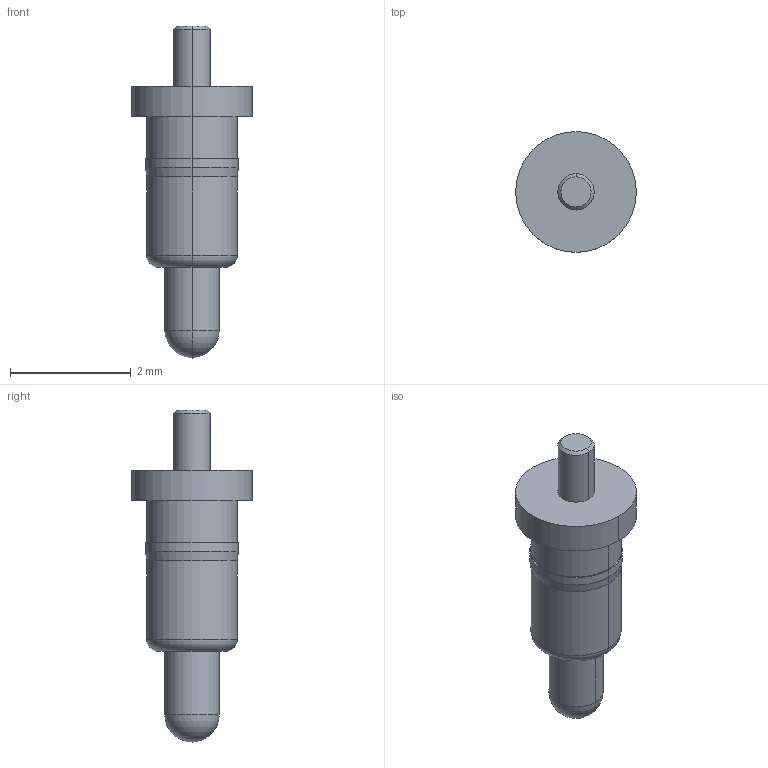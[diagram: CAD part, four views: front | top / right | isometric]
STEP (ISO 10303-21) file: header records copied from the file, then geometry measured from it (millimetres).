
FILE_DESCRIPTION((''),'2;1');
FILE_NAME('PRT0006','2023-05-26T10:43:23',('USER'),(''),'CREO PARAMETRIC BY PTC INC, 2020154','CREO PARAMETRIC BY PTC INC, 2020154','');
FILE_SCHEMA(('CONFIG_CONTROL_DESIGN'));
Length unit declared in the file: millimetre
Products named in the file (1): PRT0006
Bounding box: 2 x 2 x 5.5 mm (x, y, z)
Volume: 7.1 mm3; surface area: 26.3 mm2
Topology: 1 solids, 1 shells, 25 faces, 50 edges, 29 vertices
Faces by surface type: cylinder 12, plane 5, cone 4, torus 2, sphere 2
Entity records: 680 total; most frequent: DIRECTION 130, CARTESIAN_POINT 102, ORIENTED_EDGE 96, AXIS2_PLACEMENT_3D 57, EDGE_CURVE 48, CIRCLE 32, VERTEX_POINT 29, EDGE_LOOP 29
